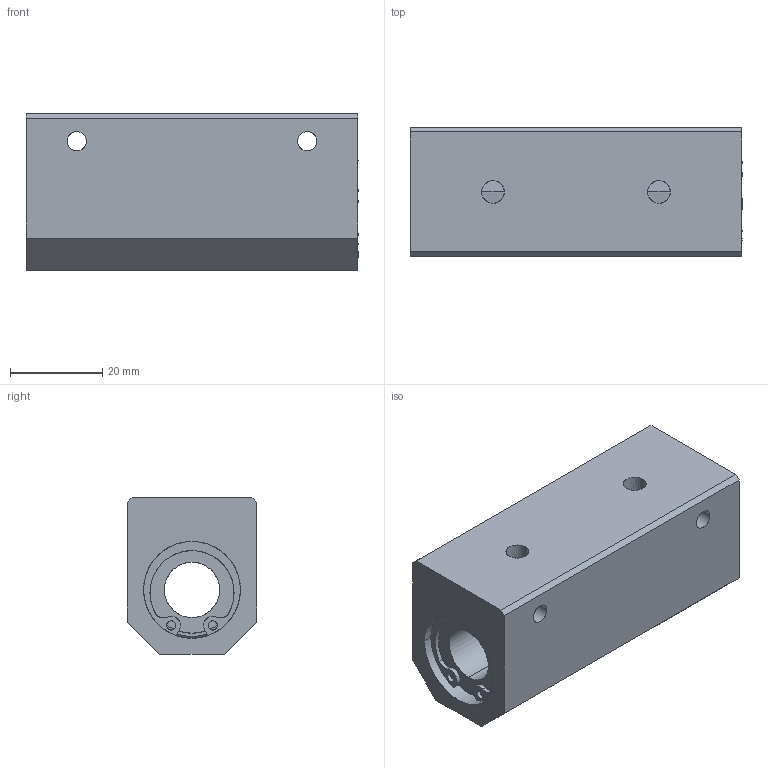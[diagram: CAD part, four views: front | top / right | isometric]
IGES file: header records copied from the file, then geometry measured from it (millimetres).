
Global section: file name: No Iges File Name specified; native system: AutoDesk Inventor R10; preprocessor: AutoDesk Inventor Iges Exporter R10; author: No Author specified; organization: No Organization specified; date: 20101216.152333; units: millimetre
Bounding box: 72 x 28 x 34 mm (x, y, z)
Surface area: 14749.6 mm2 (no closed solid volume)
Topology: 0 solids, 0 shells, 102 faces, 734 edges, 734 vertices
Faces by surface type: bspline 102
